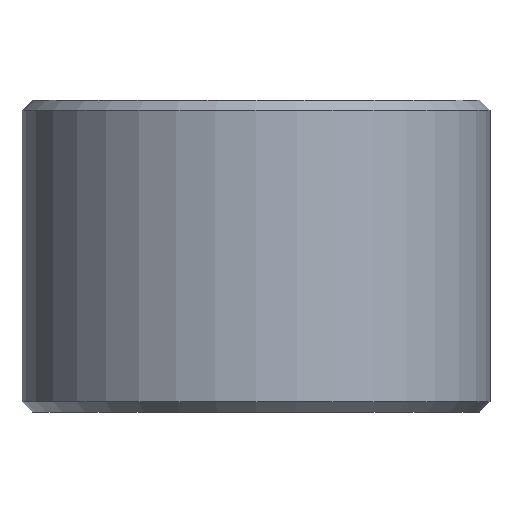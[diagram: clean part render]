
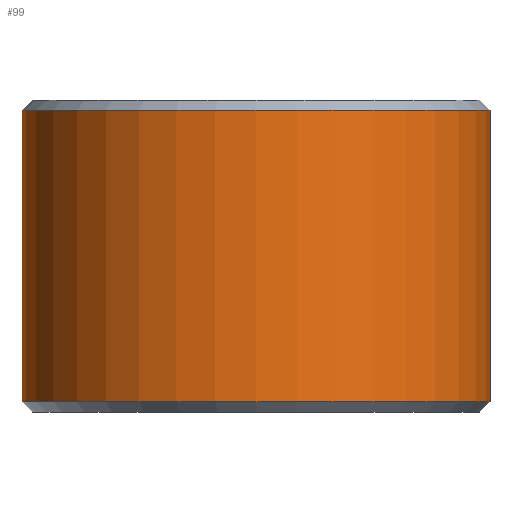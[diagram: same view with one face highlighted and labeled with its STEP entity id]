
A CAD part, front view. The second image highlights one B-rep face of the part: STEP entity #99.
In plain terms, the highlighted cylindrical face has radius 18 mm (diameter 36 mm), a partial arc.
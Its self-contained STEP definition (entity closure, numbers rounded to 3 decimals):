
#12 = EDGE_CURVE ( 'NONE', #329, #186, #132, .T. ) ;
#47 = DIRECTION ( 'NONE',  ( 0., 0., 1. ) ) ;
#77 = AXIS2_PLACEMENT_3D ( 'NONE', #313, #47, #283 ) ;
#99 = ADVANCED_FACE ( 'NONE', ( #273 ), #448, .T. ) ;
#101 = CARTESIAN_POINT ( 'NONE',  ( 18., 0., -11.2 ) ) ;
#102 = CARTESIAN_POINT ( 'NONE',  ( 18., 0., 12. ) ) ;
#108 = AXIS2_PLACEMENT_3D ( 'NONE', #127, #404, #369 ) ;
#118 = ORIENTED_EDGE ( 'NONE', *, *, #195, .F. ) ;
#120 = VERTEX_POINT ( 'NONE', #101 ) ;
#127 = CARTESIAN_POINT ( 'NONE',  ( 0., 0., 12. ) ) ;
#132 = CIRCLE ( 'NONE', #417, 18. ) ;
#133 = VECTOR ( 'NONE', #175, 1000. ) ;
#147 = CARTESIAN_POINT ( 'NONE',  ( -18., 0., 12. ) ) ;
#164 = ORIENTED_EDGE ( 'NONE', *, *, #228, .T. ) ;
#175 = DIRECTION ( 'NONE',  ( 0., 0., -1. ) ) ;
#186 = VERTEX_POINT ( 'NONE', #322 ) ;
#195 = EDGE_CURVE ( 'NONE', #329, #120, #422, .T. ) ;
#199 = CARTESIAN_POINT ( 'NONE',  ( -18., 0., -11.2 ) ) ;
#208 = LINE ( 'NONE', #147, #133 ) ;
#228 = EDGE_CURVE ( 'NONE', #186, #447, #208, .T. ) ;
#251 = EDGE_CURVE ( 'NONE', #447, #120, #272, .T. ) ;
#263 = CARTESIAN_POINT ( 'NONE',  ( 0., 0., 11.2 ) ) ;
#272 = CIRCLE ( 'NONE', #77, 18. ) ;
#273 = FACE_OUTER_BOUND ( 'NONE', #287, .T. ) ;
#283 = DIRECTION ( 'NONE',  ( 1., 0., 0. ) ) ;
#287 = EDGE_LOOP ( 'NONE', ( #118, #340, #164, #289 ) ) ;
#289 = ORIENTED_EDGE ( 'NONE', *, *, #251, .T. ) ;
#296 = DIRECTION ( 'NONE',  ( 0., 0., -1. ) ) ;
#300 = DIRECTION ( 'NONE',  ( 1., 0., 0. ) ) ;
#313 = CARTESIAN_POINT ( 'NONE',  ( 0., 0., -11.2 ) ) ;
#322 = CARTESIAN_POINT ( 'NONE',  ( -18., 0., 11.2 ) ) ;
#329 = VERTEX_POINT ( 'NONE', #342 ) ;
#340 = ORIENTED_EDGE ( 'NONE', *, *, #12, .T. ) ;
#342 = CARTESIAN_POINT ( 'NONE',  ( 18., 0., 11.2 ) ) ;
#369 = DIRECTION ( 'NONE',  ( -1., 0., 0. ) ) ;
#381 = DIRECTION ( 'NONE',  ( 0., 0., -1. ) ) ;
#404 = DIRECTION ( 'NONE',  ( 0., 0., -1. ) ) ;
#412 = VECTOR ( 'NONE', #381, 1000. ) ;
#417 = AXIS2_PLACEMENT_3D ( 'NONE', #263, #296, #300 ) ;
#422 = LINE ( 'NONE', #102, #412 ) ;
#447 = VERTEX_POINT ( 'NONE', #199 ) ;
#448 = CYLINDRICAL_SURFACE ( 'NONE', #108, 18. ) ;
